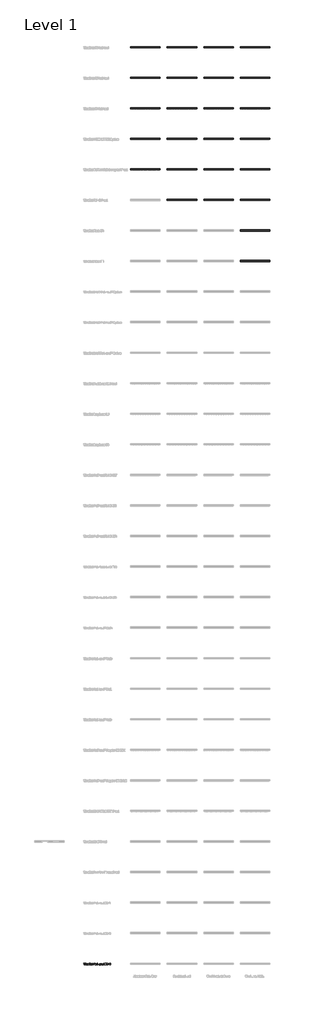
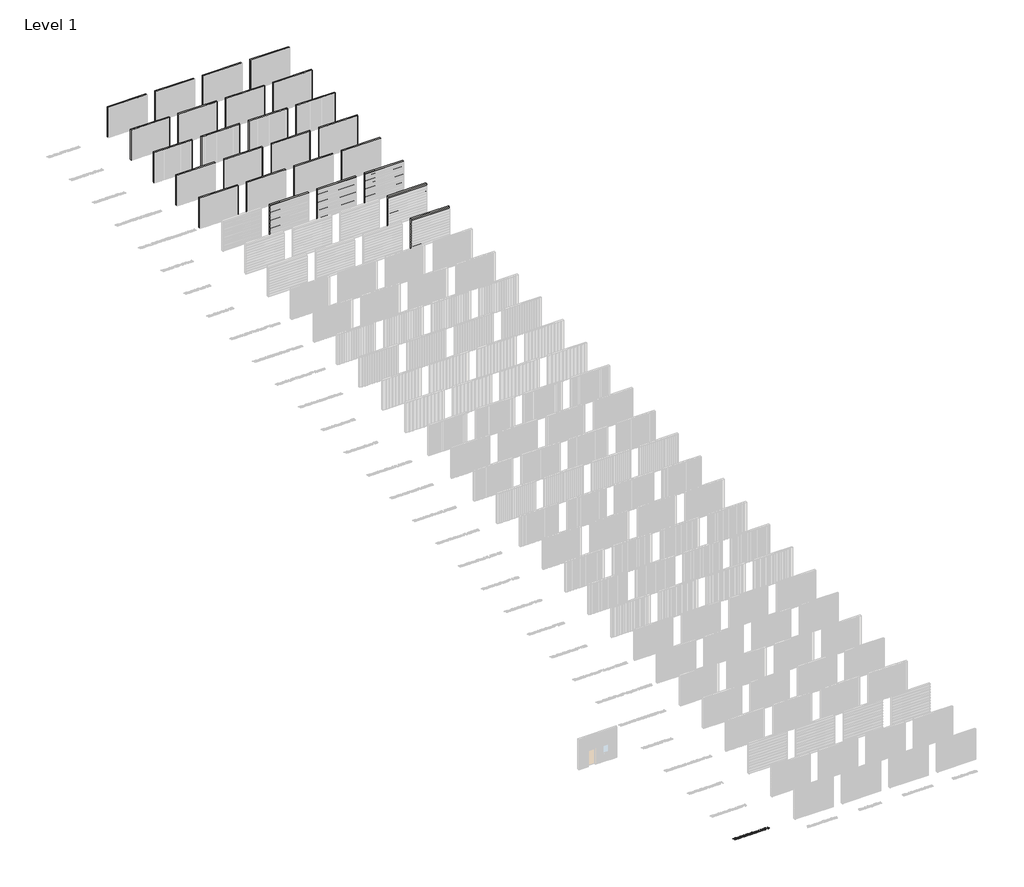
# One storey, part 2 of 33: 25 walls, 1 proxy.
"""IFC4 building model written with IfcOpenShell, lengths in millimetres."""

import ifcopenshell
import ifcopenshell.guid

model = None  # the IFC model being written
_history = None  # IfcOwnerHistory: only IFC2X3 demands one
_inside = {}  # id of a spatial element -> (the spatial element, [elements in it])
_under = {}  # id of a project, library or spatial element -> (it, [spatial elements below it])
_declared = {}  # id of a project -> (the project, [libraries it declares])
_typed = {}  # id of a type object -> (the type object, [elements of that type])
_made_of = {}  # id of a material, layer set ... -> (it, [elements and type objects made of it])


def new_model(schema):
    """Start an empty IFC model of exactly this schema.

    Asked for "IFC4X3", IfcOpenShell would pick the latest addendum, in which some entities
    have other attributes; the version numbers below select the first issue.
    IFC2X3 requires an IfcOwnerHistory on every rooted entity: one is made here for all.
    """
    global model, _history
    if schema == "IFC4X3":
        model = ifcopenshell.file(schema_version=(4, 3, 0, 0))
    else:
        model = ifcopenshell.file(schema=schema)
    _inside.clear()
    _under.clear()
    _declared.clear()
    _typed.clear()
    _made_of.clear()
    _history = None
    if model.schema == "IFC2X3":
        org = make("IfcOrganization", Name="unknown")
        user = make(
            "IfcPersonAndOrganization",
            ThePerson=make("IfcPerson", FamilyName="unknown"),
            TheOrganization=org,
        )
        app = make(
            "IfcApplication",
            ApplicationDeveloper=org,
            Version="unknown",
            ApplicationFullName="unknown",
            ApplicationIdentifier="unknown",
        )
        _history = make(
            "IfcOwnerHistory",
            OwningUser=user,
            OwningApplication=app,
            ChangeAction="ADDED",
            CreationDate=0,
        )
    return model


def make(cls, **values):
    """One entity of the class cls with the attributes given. An attribute that is None is left unset."""
    return model.create_entity(
        cls, **{name: value for name, value in values.items() if value is not None}
    )


def rooted(cls, **values):
    """An entity with a GlobalId (a new one), such as an element, a storey or a relation."""
    return make(cls, GlobalId=ifcopenshell.guid.new(), OwnerHistory=_history, **values)


def si_unit(unit_type, name, prefix=None):
    """IfcSIUnit, for example si_unit("LENGTHUNIT", "METRE", prefix="MILLI")."""
    return make("IfcSIUnit", UnitType=unit_type, Prefix=prefix, Name=name)


def assignment(units):
    """IfcUnitAssignment: the units of a project."""
    return None if units is None else make("IfcUnitAssignment", Units=units)


def point(xyz):
    """IfcCartesianPoint."""
    return None if xyz is None else make("IfcCartesianPoint", Coordinates=xyz)


def direction(xyz):
    """IfcDirection."""
    return None if xyz is None else make("IfcDirection", DirectionRatios=xyz)


def frame(location, z_axis=None, x_axis=None):
    """IfcAxis2Placement3D, a coordinate frame: its origin and axes. An axis left out is left unset."""
    return make(
        "IfcAxis2Placement3D",
        Location=point(location),
        Axis=direction(z_axis),
        RefDirection=direction(x_axis),
    )


def origin():
    """The frame at (0, 0, 0) with its axes left unset."""
    return frame((0.0, 0.0, 0.0))


def origin_with_axes():
    """The frame at (0, 0, 0) with the z axis (0, 0, 1) and the x axis (1, 0, 0) written out."""
    return frame((0.0, 0.0, 0.0), z_axis=(0.0, 0.0, 1.0), x_axis=(1.0, 0.0, 0.0))


def place(relative_to, where):
    """IfcLocalPlacement: puts the frame where relative to a parent placement (None: the world)."""
    return make(
        "IfcLocalPlacement", PlacementRelTo=relative_to, RelativePlacement=where
    )


def context(
    kind, dimensions, precision=None, world=None, true_north=None, identifier=None
):
    """IfcGeometricRepresentationContext, for example the 3D "Model" context."""
    return make(
        "IfcGeometricRepresentationContext",
        ContextIdentifier=identifier,
        ContextType=kind,
        CoordinateSpaceDimension=dimensions,
        Precision=precision,
        WorldCoordinateSystem=world,
        TrueNorth=true_north,
    )


def project(units=None, contexts=None):
    """IfcProject with its units and contexts."""
    return rooted(
        "IfcProject",
        Name="project",
        RepresentationContexts=contexts,
        UnitsInContext=assignment(units),
    )


def spatial(cls, under=None, at=None, **own):
    """A site, building, storey or space (cls), placed at a placement, below another one or the project."""
    s = rooted(cls, ObjectPlacement=at, **own)
    if under is not None:
        _under.setdefault(under.id(), (under, []))[1].append(s)
    return s


def polyline(points):
    """IfcPolyline through the points."""
    return make("IfcPolyline", Points=[point(p) for p in points])


def outline(outer, holes=None, kind="AREA"):
    """IfcArbitraryClosedProfileDef: a profile drawn as a closed curve; with holes, ...WithVoids."""
    if holes is None:
        return make("IfcArbitraryClosedProfileDef", ProfileType=kind, OuterCurve=outer)
    return make(
        "IfcArbitraryProfileDefWithVoids",
        ProfileType=kind,
        OuterCurve=outer,
        InnerCurves=holes,
    )


def extrude(swept, where, along, depth):
    """IfcExtrudedAreaSolid: the profile swept, set in the frame where, extruded along a direction by depth."""
    return make(
        "IfcExtrudedAreaSolid",
        SweptArea=swept,
        Position=where,
        ExtrudedDirection=direction(along),
        Depth=depth,
    )


def shape(context_of_items, identifier, shape_type, items):
    """IfcShapeRepresentation: the items that make up one representation, for example the "Body"."""
    return make(
        "IfcShapeRepresentation",
        ContextOfItems=context_of_items,
        RepresentationIdentifier=identifier,
        RepresentationType=shape_type,
        Items=items,
    )


def made_of(thing, what):
    """Note that an element or type object is made of a material, layer set ...; save() writes the relation."""
    if what is not None:
        _made_of.setdefault(what.id(), (what, []))[1].append(thing)
    return thing


def element(
    cls,
    number,
    at=None,
    inside=None,
    cuts=None,
    type_object=None,
    material=None,
    context=None,
    identifier="Body",
    shape_type=None,
    held_by="IfcProductDefinitionShape",
    body=None,
    shapes=None,
    **own,
):
    """One element of the class cls, such as IfcWall. Its Tag is "e" and its number.

    at: its placement. inside: the storey or other place that contains it. cuts: it is an
    opening in that element (IfcRelVoidsElement). A single representation is given by context,
    identifier, shape_type and body (its items); several are given by shapes. held_by: the class
    of the entity that holds the representations. save() writes the other relations.
    """
    e = rooted(cls, Tag="e%d" % number, ObjectPlacement=at, **own)
    if body is not None:
        shapes = [shape(context, identifier, shape_type, body)]
    if shapes is not None:
        e.Representation = make(held_by, Representations=shapes)
    if inside is not None:
        _inside.setdefault(inside.id(), (inside, []))[1].append(e)
    if cuts is not None:
        rooted(
            "IfcRelVoidsElement", RelatingBuildingElement=cuts, RelatedOpeningElement=e
        )
    if type_object is not None:
        _typed.setdefault(type_object.id(), (type_object, []))[1].append(e)
    return made_of(e, material)


def aggregate(whole, parts):
    """IfcRelAggregates: a whole, such as a stair, and the parts it consists of."""
    return rooted("IfcRelAggregates", RelatingObject=whole, RelatedObjects=parts)


def save(model, path):
    """Write the relations noted so far, then the file.

    IfcRelAggregates (storeys below a building ...), IfcRelContainedInSpatialStructure (elements
    in a storey), IfcRelDefinesByType, IfcRelAssociatesMaterial and IfcRelDeclares: one each for
    every whole, place, type object, material and project.
    """
    for whole, parts in _under.values():
        aggregate(whole, parts)
    for where, things in _inside.values():
        rooted(
            "IfcRelContainedInSpatialStructure",
            RelatedElements=things,
            RelatingStructure=where,
        )
    for kind, things in _typed.values():
        rooted("IfcRelDefinesByType", RelatedObjects=things, RelatingType=kind)
    for what, things in _made_of.values():
        rooted("IfcRelAssociatesMaterial", RelatedObjects=things, RelatingMaterial=what)
    for by, libraries in _declared.values():
        rooted("IfcRelDeclares", RelatingContext=by, RelatedDefinitions=libraries)
    model.write(path)


model = new_model("IFC4")

# Units and contexts
model_context = context("Model", 3, world=origin())
ifc_project = project(units=[si_unit("LENGTHUNIT", "METRE", prefix="MILLI")], contexts=[model_context])

# Site, building, storey
site = spatial("IfcSite", under=ifc_project)
building = spatial("IfcBuilding", under=site)
storey = spatial("IfcBuildingStorey", under=building, Name="Level 1", Elevation=0.0)

# Proxy
placement = place(None, origin())
element("IfcBuildingElementProxy", 1, Name="600mm Arial 2", ObjectType="600mm Arial 2", at=placement, inside=storey, context=model_context, shape_type="SweptSolid", body=[
    extrude(outline(polyline([(-9914.9924556, -17779.5871657), (-9914.9924556, -18047.0126498), (-9954.4439015, -18047.0126498), (-9954.4439015, -17779.5871657), (-10038.8787304, -17779.5871657), (-10038.8787304, -17742.6833224), (-9830.5576267, -17742.6833224), (-9830.5576267, -17779.5871657), (-9914.9924556, -17779.5871657)])), origin_with_axes(), (0.0, 0.0, 1.0), 5.0),
    extrude(outline(polyline([(-9763.1553408, -17746.9778525), (-9763.1553408, -17794.1448949), (-9802.6067867, -17794.1448949), (-9802.6067867, -17746.9778525), (-9763.1553408, -17746.9778525)])), origin_with_axes(), (0.0, 0.0, 1.0), 5.0),
    extrude(outline(polyline([(-9764.0288046, -17821.1494824), (-9764.0288046, -18047.0126498), (-9801.733323, -18047.0126498), (-9801.733323, -17821.1494824), (-9764.0288046, -17821.1494824)])), origin_with_axes(), (0.0, 0.0, 1.0), 5.0),
    extrude(outline(polyline([(-9648.294858, -17987.398749), (-9646.8208879, -17998.4808203), (-9642.3989777, -18006.3965855), (-9635.0291273, -18011.1460446), (-9624.7113368, -18012.7291977), (-9603.2386864, -18012.7291977), (-9603.2386864, -18047.0126498), (-9629.3698101, -18047.0126498), (-9653.1535001, -18043.0456686), (-9671.3688587, -18031.144725), (-9682.6692959, -18012.6018175), (-9686.4361083, -17988.7089446), (-9686.4361083, -17852.8853319), (-9720.2828285, -17852.8853319), (-9720.2828285, -17821.1494824), (-9686.4361083, -17821.1494824), (-9686.4361083, -17773.1089763), (-9648.294858, -17755.1301808), (-9648.294858, -17821.1494824), (-9599.3808881, -17821.1494824), (-9599.3808881, -17852.8853319), (-9648.294858, -17852.8853319), (-9648.294858, -17987.398749)])), origin_with_axes(), (0.0, 0.0, 1.0), 5.0),
    extrude(outline(polyline([(-9422.8684225, -17837.8908709), (-9413.2830677, -17848.6590411), (-9406.4363858, -17861.7473495), (-9400.9590402, -17894.8843804), (-9400.9590402, -18047.0126498), (-9438.2996154, -18047.0126498), (-9438.2996154, -18030.7079931), (-9456.7151427, -18043.1548515), (-9473.7476858, -18047.9589022), (-9493.9829293, -18049.5602524), (-9526.0281305, -18045.2839194), (-9550.1029751, -18032.4549206), (-9565.2248162, -18010.6729184), (-9570.2654299, -17981.4300801), (-9565.1338304, -17953.7885919), (-9549.7390318, -17932.5888988), (-9525.063681, -17919.3777597), (-9493.1094655, -17914.9740466), (-9438.7363472, -17914.9740466), (-9438.7363472, -17894.4476485), (-9441.6296959, -17875.558995), (-9450.3097419, -17861.8383353), (-9464.2305704, -17853.8133871), (-9483.7197302, -17851.1384044), (-9502.2262434, -17853.3948524), (-9515.819523, -17860.1641964), (-9524.1720201, -17870.5183813), (-9526.9561857, -17884.5483927), (-9526.9561857, -17890.1531184), (-9563.8600291, -17890.1531184), (-9563.8600291, -17883.7477176), (-9558.4008807, -17856.7067358), (-9542.0234354, -17835.7072115), (-9516.8203668, -17822.5506638), (-9484.1564621, -17818.1651479), (-9448.6719974, -17823.0965787), (-9434.5600987, -17829.2608671), (-9422.8684225, -17837.8908709)]), holes=[polyline([(-9450.6736851, -18005.4503331), (-9441.7206817, -17990.5468579), (-9438.7363472, -17968.9832216), (-9438.7363472, -17945.0357572), (-9488.8149354, -17945.0357572), (-9507.9538, -17947.2831067), (-9521.6244175, -17954.025155), (-9529.826788, -17965.2619021), (-9532.5609115, -17980.9933482), (-9529.8540837, -17996.9477094), (-9521.7336004, -18008.3436818), (-9508.1994616, -18015.1812652), (-9489.2516673, -18017.4604596), (-9466.104878, -18014.457928), (-9450.6736851, -18005.4503331)])]), origin_with_axes(), (0.0, 0.0, 1.0), 5.0),
    extrude(outline(polyline([(-9306.6977441, -17821.1494824), (-9306.6977441, -17839.5650097), (-9288.2822167, -17826.3174762), (-9271.1222935, -17820.5307789), (-9252.2518372, -17818.6018798), (-9219.9154813, -17824.0610282), (-9206.7907787, -17830.8849637), (-9195.6950595, -17840.4384735), (-9187.0650557, -17852.0209667), (-9180.9007673, -17865.8053165), (-9175.9693365, -17899.9795856), (-9175.9693365, -18047.0126498), (-9213.673855, -18047.0126498), (-9213.673855, -17904.2741157), (-9216.6763866, -17881.8916072), (-9225.6839815, -17866.1328654), (-9240.3781893, -17856.5247642), (-9259.567096, -17853.3220637), (-9278.7378056, -17856.5247642), (-9293.3774219, -17866.1328654), (-9303.0401146, -17882.546705), (-9306.2610122, -17904.2741157), (-9306.2610122, -18047.0126498), (-9343.9655306, -18047.0126498), (-9343.9655306, -17821.1494824), (-9306.6977441, -17821.1494824)])), origin_with_axes(), (0.0, 0.0, 1.0), 5.0),
    extrude(outline(polyline([(-9025.2240514, -17779.5871657), (-9025.2240514, -18047.0126498), (-9064.6754974, -18047.0126498), (-9064.6754974, -17779.5871657), (-9149.1103263, -17779.5871657), (-9149.1103263, -17742.6833224), (-8940.7892225, -17742.6833224), (-8940.7892225, -17779.5871657), (-9025.2240514, -17779.5871657)])), origin_with_axes(), (0.0, 0.0, 1.0), 5.0),
    extrude(outline(polyline([(-8884.5235994, -17952.7513537), (-8881.1025331, -17982.1670651), (-8870.8393341, -18001.1194087), (-8854.3527058, -18011.4099035), (-8832.2613519, -18014.8400684), (-8812.990558, -18012.2742686), (-8798.8513635, -18004.5768694), (-8790.1713175, -17992.8033059), (-8787.2779689, -17977.13555), (-8787.2779689, -17971.6036129), (-8750.3741256, -17971.6036129), (-8750.3741256, -17978.0090137), (-8756.0516399, -18007.1608663), (-8763.1485329, -18019.471246), (-8773.084183, -18030.2712613), (-8799.7976159, -18044.7380046), (-8834.3722226, -18049.5602524), (-8853.3222916, -18048.0612612), (-8870.2843206, -18043.5642877), (-8885.2583098, -18036.0693318), (-8898.2442591, -18025.5763936), (-8908.7371973, -18011.9762901), (-8916.2321532, -17995.1598383), (-8920.7291267, -17975.1270383), (-8922.2281179, -17951.8778899), (-8922.2281179, -17914.1733715), (-8920.7314014, -17891.4678633), (-8916.2412518, -17871.8285769), (-8908.7576691, -17855.2555121), (-8898.2806535, -17841.7486691), (-8885.4971476, -17831.4308786), (-8870.7301511, -17824.0610282), (-8853.979664, -17819.639118), (-8835.2456864, -17818.1651479), (-8816.8438069, -17819.639118), (-8800.2161506, -17824.0610282), (-8785.3627176, -17831.4308786), (-8772.2835079, -17841.7486691), (-8761.9657174, -17855.0917377), (-8754.595867, -17871.610211), (-8750.1739568, -17891.3040889), (-8748.6999867, -17914.1733715), (-8748.6999867, -17944.1622935), (-8884.5235994, -17944.1622935), (-8884.5235994, -17952.7513537)]), holes=[polyline([(-8871.2760659, -17866.5695973), (-8881.2117161, -17884.69397), (-8884.5235994, -17913.2999077), (-8786.4045051, -17913.7366396), (-8786.4045051, -17910.3155733), (-8789.6254027, -17883.0744226), (-8799.2880954, -17865.6961335), (-8814.9012599, -17856.4155812), (-8835.2456864, -17853.3220637), (-8855.60831, -17856.6339471), (-8871.2760659, -17866.5695973)])]), origin_with_axes(), (0.0, 0.0, 1.0), 5.0),
    extrude(outline(polyline([(-8663.391694, -17979.6831526), (-8663.391694, -18047.0126498), (-8701.0962125, -18047.0126498), (-8701.0962125, -17742.6833224), (-8663.391694, -17742.6833224), (-8663.391694, -17929.1678325), (-8575.0990669, -17821.1494824), (-8528.3687564, -17821.1494824), (-8602.5403863, -17908.1319139), (-8517.6688255, -18047.0126498), (-8563.5256722, -18047.0126498), (-8627.7980463, -17937.3201608), (-8663.391694, -17979.6831526)])), origin_with_axes(), (0.0, 0.0, 1.0), 5.0),
    extrude(outline(polyline([(-8240.5624516, -17742.6833224), (-8199.0001349, -17742.6833224), (-8298.4294248, -18047.0126498), (-8330.1652743, -18047.0126498), (-8429.1578324, -17742.6833224), (-8387.5955157, -17742.6833224), (-8313.8606177, -17977.13555), (-8240.5624516, -17742.6833224)])), origin_with_axes(), (0.0, 0.0, 1.0), 5.0),
    extrude(outline(polyline([(-8039.3018464, -17837.8908709), (-8029.7164916, -17848.6590411), (-8022.8698097, -17861.7473495), (-8017.3924641, -17894.8843804), (-8017.3924641, -18047.0126498), (-8054.7330393, -18047.0126498), (-8054.7330393, -18030.7079931), (-8073.1485666, -18043.1548515), (-8090.1811097, -18047.9589022), (-8110.4163532, -18049.5602524), (-8142.4615544, -18045.2839194), (-8166.536399, -18032.4549206), (-8181.6582401, -18010.6729184), (-8186.6988538, -17981.4300801), (-8181.5672543, -17953.7885919), (-8166.1724557, -17932.5888988), (-8141.4971049, -17919.3777597), (-8109.5428894, -17914.9740466), (-8055.1697712, -17914.9740466), (-8055.1697712, -17894.4476485), (-8058.0631198, -17875.558995), (-8066.7431658, -17861.8383353), (-8080.6639943, -17853.8133871), (-8100.1531542, -17851.1384044), (-8118.6596673, -17853.3948524), (-8132.2529469, -17860.1641964), (-8140.605444, -17870.5183813), (-8143.3896097, -17884.5483927), (-8143.3896097, -17890.1531184), (-8180.293453, -17890.1531184), (-8180.293453, -17883.7477176), (-8174.8343046, -17856.7067358), (-8158.4568593, -17835.7072115), (-8133.2537908, -17822.5506638), (-8100.589886, -17818.1651479), (-8065.1054213, -17823.0965787), (-8050.9935226, -17829.2608671), (-8039.3018464, -17837.8908709)]), holes=[polyline([(-8067.107109, -18005.4503331), (-8058.1541056, -17990.5468579), (-8055.1697712, -17968.9832216), (-8055.1697712, -17945.0357572), (-8105.2483594, -17945.0357572), (-8124.3872239, -17947.2831067), (-8138.0578414, -17954.025155), (-8146.2602119, -17965.2619021), (-8148.9943354, -17980.9933482), (-8146.2875076, -17996.9477094), (-8138.1670243, -18008.3436818), (-8124.6328855, -18015.1812652), (-8105.6850912, -18017.4604596), (-8082.5383019, -18014.457928), (-8067.107109, -18005.4503331)])]), origin_with_axes(), (0.0, 0.0, 1.0), 5.0),
    extrude(outline(polyline([(-7870.4321886, -17818.1651479), (-7850.2697337, -17820.2760186), (-7850.2697337, -17859.2907327), (-7876.8375894, -17853.686007), (-7895.1712295, -17857.2253549), (-7909.8472402, -17867.8433985), (-7919.4826371, -17884.2481396), (-7922.6944361, -17905.1475794), (-7922.6944361, -18047.0126498), (-7960.3989546, -18047.0126498), (-7960.3989546, -17821.1494824), (-7923.131168, -17821.1494824), (-7923.131168, -17840.8752053), (-7905.5891044, -17826.6814194), (-7889.4846166, -17820.2942158), (-7870.4321886, -17818.1651479)])), origin_with_axes(), (0.0, 0.0, 1.0), 5.0),
    extrude(outline(polyline([(-7773.9872331, -17746.9778525), (-7773.9872331, -17794.1448949), (-7813.438679, -17794.1448949), (-7813.438679, -17746.9778525), (-7773.9872331, -17746.9778525)])), origin_with_axes(), (0.0, 0.0, 1.0), 5.0),
    extrude(outline(polyline([(-7774.8606969, -17821.1494824), (-7774.8606969, -18047.0126498), (-7812.5652153, -18047.0126498), (-7812.5652153, -17821.1494824), (-7774.8606969, -17821.1494824)])), origin_with_axes(), (0.0, 0.0, 1.0), 5.0),
    extrude(outline(polyline([(-7529.6357497, -17766.7035755), (-7518.2033831, -17780.1603763), (-7510.0374069, -17796.073794), (-7505.1378212, -17814.4438284), (-7503.504626, -17835.2704796), (-7505.1651169, -17854.955259), (-7510.1465899, -17872.4472804), (-7518.4490448, -17887.7465438), (-7530.0724816, -17900.8530493), (-7544.1297888, -17911.3619101), (-7560.6073184, -17918.8682391), (-7579.5050706, -17923.3720366), (-7600.8230452, -17924.8733024), (-7671.5008201, -17924.8733024), (-7671.5008201, -18047.0126498), (-7711.3889979, -18047.0126498), (-7711.3889979, -17742.6833224), (-7600.8230452, -17742.6833224), (-7579.6415493, -17744.1845882), (-7560.7165014, -17748.6883857), (-7544.0479016, -17756.1947147), (-7529.6357497, -17766.7035755)]), holes=[polyline([(-7558.3872648, -17874.7219256), (-7547.141419, -17858.4172689), (-7543.3928038, -17835.2704796), (-7547.250602, -17810.6497202), (-7558.8239966, -17793.2714311), (-7577.8946218, -17783.0082321), (-7603.3706478, -17779.5871657), (-7671.5008201, -17779.5871657), (-7671.5008201, -17887.9694591), (-7603.3706478, -17887.9694591), (-7577.130341, -17884.6575757), (-7558.3872648, -17874.7219256)])]), origin_with_axes(), (0.0, 0.0, 1.0), 5.0),
    extrude(outline(polyline([(-7331.2139018, -17837.8908709), (-7321.628547, -17848.6590411), (-7314.781865, -17861.7473495), (-7309.3045194, -17894.8843804), (-7309.3045194, -18047.0126498), (-7346.6450946, -18047.0126498), (-7346.6450946, -18030.7079931), (-7365.060622, -18043.1548515), (-7382.093165, -18047.9589022), (-7402.3284085, -18049.5602524), (-7434.3736098, -18045.2839194), (-7458.4484543, -18032.4549206), (-7473.5702954, -18010.6729184), (-7478.6109091, -17981.4300801), (-7473.4793096, -17953.7885919), (-7458.0845111, -17932.5888988), (-7433.4091602, -17919.3777597), (-7401.4549448, -17914.9740466), (-7347.0818265, -17914.9740466), (-7347.0818265, -17894.4476485), (-7349.9751752, -17875.558995), (-7358.6552212, -17861.8383353), (-7372.5760496, -17853.8133871), (-7392.0652095, -17851.1384044), (-7410.5717226, -17853.3948524), (-7424.1650022, -17860.1641964), (-7432.5174993, -17870.5183813), (-7435.301665, -17884.5483927), (-7435.301665, -17890.1531184), (-7472.2055083, -17890.1531184), (-7472.2055083, -17883.7477176), (-7466.7463599, -17856.7067358), (-7450.3689146, -17835.7072115), (-7425.1658461, -17822.5506638), (-7392.5019414, -17818.1651479), (-7357.0174766, -17823.0965787), (-7342.905578, -17829.2608671), (-7331.2139018, -17837.8908709)]), holes=[polyline([(-7359.0191644, -18005.4503331), (-7350.066161, -17990.5468579), (-7347.0818265, -17968.9832216), (-7347.0818265, -17945.0357572), (-7397.1604147, -17945.0357572), (-7416.2992792, -17947.2831067), (-7429.9698967, -17954.025155), (-7438.1722672, -17965.2619021), (-7440.9063907, -17980.9933482), (-7438.199563, -17996.9477094), (-7430.0790797, -18008.3436818), (-7416.5449409, -18015.1812652), (-7397.5971466, -18017.4604596), (-7374.4503573, -18014.457928), (-7359.0191644, -18005.4503331)])]), origin_with_axes(), (0.0, 0.0, 1.0), 5.0),
    extrude(outline(polyline([(-7215.0432233, -17821.1494824), (-7215.0432233, -17839.5650097), (-7196.627696, -17826.3174762), (-7179.4677728, -17820.5307789), (-7160.5973164, -17818.6018798), (-7128.2609606, -17824.0610282), (-7115.1362579, -17830.8849637), (-7104.0405387, -17840.4384735), (-7095.410535, -17852.0209667), (-7089.2462465, -17865.8053165), (-7084.3148158, -17899.9795856), (-7084.3148158, -18047.0126498), (-7122.0193342, -18047.0126498), (-7122.0193342, -17904.2741157), (-7125.0218659, -17881.8916072), (-7134.0294607, -17866.1328654), (-7148.7236686, -17856.5247642), (-7167.9125753, -17853.3220637), (-7187.0832848, -17856.5247642), (-7201.7229012, -17866.1328654), (-7211.3855939, -17882.546705), (-7214.6064915, -17904.2741157), (-7214.6064915, -18047.0126498), (-7252.3110099, -18047.0126498), (-7252.3110099, -17821.1494824), (-7215.0432233, -17821.1494824)])), origin_with_axes(), (0.0, 0.0, 1.0), 5.0),
    extrude(outline(polyline([(-6997.8419048, -17952.7513537), (-6994.4208384, -17982.1670651), (-6984.1576394, -18001.1194087), (-6967.6710112, -18011.4099035), (-6945.5796572, -18014.8400684), (-6926.3088633, -18012.2742686), (-6912.1696689, -18004.5768694), (-6903.4896229, -17992.8033059), (-6900.5962742, -17977.13555), (-6900.5962742, -17971.6036129), (-6863.6924309, -17971.6036129), (-6863.6924309, -17978.0090137), (-6869.3699452, -18007.1608663), (-6876.4668382, -18019.471246), (-6886.4024883, -18030.2712613), (-6913.1159213, -18044.7380046), (-6947.6905279, -18049.5602524), (-6966.6405969, -18048.0612612), (-6983.602626, -18043.5642877), (-6998.5766152, -18036.0693318), (-7011.5625645, -18025.5763936), (-7022.0555027, -18011.9762901), (-7029.5504585, -17995.1598383), (-7034.047432, -17975.1270383), (-7035.5464232, -17951.8778899), (-7035.5464232, -17914.1733715), (-7034.0497067, -17891.4678633), (-7029.5595571, -17871.8285769), (-7022.0759745, -17855.2555121), (-7011.5989588, -17841.7486691), (-6998.8154529, -17831.4308786), (-6984.0484564, -17824.0610282), (-6967.2979694, -17819.639118), (-6948.5639917, -17818.1651479), (-6930.1621122, -17819.639118), (-6913.534456, -17824.0610282), (-6898.681023, -17831.4308786), (-6885.6018132, -17841.7486691), (-6875.2840227, -17855.0917377), (-6867.9141723, -17871.610211), (-6863.4922621, -17891.3040889), (-6862.018292, -17914.1733715), (-6862.018292, -17944.1622935), (-6997.8419048, -17944.1622935), (-6997.8419048, -17952.7513537)]), holes=[polyline([(-6984.5943713, -17866.5695973), (-6994.5300214, -17884.69397), (-6997.8419048, -17913.2999077), (-6899.7228105, -17913.7366396), (-6899.7228105, -17910.3155733), (-6902.943708, -17883.0744226), (-6912.6064007, -17865.6961335), (-6928.2195652, -17856.4155812), (-6948.5639917, -17853.3220637), (-6968.9266153, -17856.6339471), (-6984.5943713, -17866.5695973)])]), origin_with_axes(), (0.0, 0.0, 1.0), 5.0),
    extrude(outline(polyline([(-6799.4200568, -18031.144725), (-6810.6659025, -18011.637368), (-6814.4145178, -17985.7246101), (-6814.4145178, -17742.6833224), (-6776.7099994, -17742.6833224), (-6776.7099994, -17983.9776826), (-6775.3270151, -17997.3889906), (-6771.1780623, -18005.887065), (-6764.1903523, -18010.3635667), (-6753.5632101, -18011.8557339), (-6731.7266164, -18011.8557339), (-6731.7266164, -18047.0126498), (-6756.5475445, -18047.0126498), (-6781.4230642, -18043.0456686), (-6799.4200568, -18031.144725)])), origin_with_axes(), (0.0, 0.0, 1.0), 5.0),
    extrude(outline(polyline([(-6393.1138369, -18047.0126498), (-6432.9292261, -18047.0126498), (-6432.9292261, -17909.8788414), (-6562.7841699, -17909.8788414), (-6562.7841699, -18047.0126498), (-6602.6723477, -18047.0126498), (-6602.6723477, -17742.6833224), (-6562.7841699, -17742.6833224), (-6562.7841699, -17872.9749981), (-6432.9292261, -17872.9749981), (-6432.9292261, -17742.6833224), (-6393.1138369, -17742.6833224), (-6393.1138369, -18047.0126498)])), origin_with_axes(), (0.0, 0.0, 1.0), 5.0),
    extrude(outline(polyline([(-6176.8587707, -17742.6833224), (-6135.2964541, -17742.6833224), (-6234.725744, -18047.0126498), (-6266.4615935, -18047.0126498), (-6365.4541516, -17742.6833224), (-6323.8918349, -17742.6833224), (-6250.1569369, -17977.13555), (-6176.8587707, -17742.6833224)])), origin_with_axes(), (0.0, 0.0, 1.0), 5.0),
    extrude(outline(polyline([(-5927.1209276, -17766.7035755), (-5915.6885609, -17780.1603763), (-5907.5225848, -17796.073794), (-5902.6229991, -17814.4438284), (-5900.9898038, -17835.2704796), (-5902.6502948, -17854.955259), (-5907.6317677, -17872.4472804), (-5915.9342226, -17887.7465438), (-5927.5576595, -17900.8530493), (-5941.6149667, -17911.3619101), (-5958.0924963, -17918.8682391), (-5976.9902484, -17923.3720366), (-5998.308223, -17924.8733024), (-6068.9859979, -17924.8733024), (-6068.9859979, -18047.0126498), (-6108.8741757, -18047.0126498), (-6108.8741757, -17742.6833224), (-5998.308223, -17742.6833224), (-5977.1267271, -17744.1845882), (-5958.2016793, -17748.6883857), (-5941.5330794, -17756.1947147), (-5927.1209276, -17766.7035755)]), holes=[polyline([(-5955.8724426, -17874.7219256), (-5944.6265969, -17858.4172689), (-5940.8779816, -17835.2704796), (-5944.7357798, -17810.6497202), (-5956.3091745, -17793.2714311), (-5975.3797996, -17783.0082321), (-6000.8558256, -17779.5871657), (-6068.9859979, -17779.5871657), (-6068.9859979, -17887.9694591), (-6000.8558256, -17887.9694591), (-5974.6155189, -17884.6575757), (-5955.8724426, -17874.7219256)])]), origin_with_axes(), (0.0, 0.0, 1.0), 5.0),
    extrude(outline(polyline([(-5632.4724901, -17989.1456765), (-5632.4724901, -18047.0126498), (-5672.3606679, -18047.0126498), (-5672.3606679, -17989.1456765), (-5783.3633525, -17989.1456765), (-5783.3633525, -17955.7356881), (-5693.3965865, -17742.6833224), (-5652.6349449, -17742.6833224), (-5741.364304, -17952.3146218), (-5672.3606679, -17952.3146218), (-5672.3606679, -17871.7375911), (-5632.4724901, -17871.7375911), (-5632.4724901, -17952.3146218), (-5600.3726974, -17952.3146218), (-5600.3726974, -17989.1456765), (-5632.4724901, -17989.1456765)])), origin_with_axes(), (0.0, 0.0, 1.0), 5.0),
])

# Walls
element("IfcWall", 2, ObjectType="Generic - 200mm", at=placement, inside=storey, context=model_context, shape_type="SweptSolid", body=[
    extrude(outline(polyline([(20489.4102183, 97078.6095025), (15639.4102183, 97078.6095025), (15639.4102183, 97278.6095025), (20489.4102183, 97278.6095025), (20489.4102183, 97078.6095025)])), origin_with_axes(), (0.0, 0.0, 1.0), 4000.0),
])
element("IfcWall", 3, ObjectType="Generic - 200mm", at=placement, inside=storey, context=model_context, shape_type="SweptSolid", body=[
    extrude(outline(polyline([(20489.4102183, 102078.6095025), (15639.4102183, 102078.6095025), (15639.4102183, 102278.6095025), (20489.4102183, 102278.6095025), (20489.4102183, 102078.6095025)])), origin_with_axes(), (0.0, 0.0, 1.0), 4000.0),
])
element("IfcWall", 4, ObjectType="Generic - 200mm", at=placement, inside=storey, context=model_context, shape_type="SweptSolid", body=[
    extrude(outline(polyline([(8489.4102183, 107078.6095025), (3639.4102183, 107078.6095025), (3639.4102183, 107278.6095025), (8489.4102183, 107278.6095025), (8489.4102183, 107078.6095025)])), origin_with_axes(), (0.0, 0.0, 1.0), 4000.0),
])
element("IfcWall", 5, ObjectType="Generic - 200mm", at=placement, inside=storey, context=model_context, shape_type="SweptSolid", body=[
    extrude(outline(polyline([(14489.4102183, 107078.6095025), (9639.4102183, 107078.6095025), (9639.4102183, 107278.6095025), (14489.4102183, 107278.6095025), (14489.4102183, 107078.6095025)])), origin_with_axes(), (0.0, 0.0, 1.0), 4000.0),
])
element("IfcWall", 6, ObjectType="Generic - 200mm", at=placement, inside=storey, context=model_context, shape_type="SweptSolid", body=[
    extrude(outline(polyline([(20489.4102183, 107078.6095025), (15639.4102183, 107078.6095025), (15639.4102183, 107278.6095025), (20489.4102183, 107278.6095025), (20489.4102183, 107078.6095025)])), origin_with_axes(), (0.0, 0.0, 1.0), 4000.0),
])
element("IfcWall", 7, ObjectType="Generic - 200mm", at=placement, inside=storey, context=model_context, shape_type="SweptSolid", body=[
    extrude(outline(polyline([(2489.4102183, 112078.6095025), (-2360.5897817, 112078.6095025), (-2360.5897817, 112278.6095025), (2489.4102183, 112278.6095025), (2489.4102183, 112078.6095025)])), origin_with_axes(), (0.0, 0.0, 1.0), 4000.0),
])
element("IfcWall", 8, ObjectType="Generic - 200mm", at=placement, inside=storey, context=model_context, shape_type="SweptSolid", body=[
    extrude(outline(polyline([(8489.4102183, 112078.6095025), (3639.4102183, 112078.6095025), (3639.4102183, 112278.6095025), (8489.4102183, 112278.6095025), (8489.4102183, 112078.6095025)])), origin_with_axes(), (0.0, 0.0, 1.0), 4000.0),
])
element("IfcWall", 9, ObjectType="Generic - 200mm", at=placement, inside=storey, context=model_context, shape_type="SweptSolid", body=[
    extrude(outline(polyline([(14489.4102183, 112078.6095025), (9639.4102183, 112078.6095025), (9639.4102183, 112278.6095025), (14489.4102183, 112278.6095025), (14489.4102183, 112078.6095025)])), origin_with_axes(), (0.0, 0.0, 1.0), 4000.0),
])
element("IfcWall", 10, ObjectType="Generic - 200mm", at=placement, inside=storey, context=model_context, shape_type="SweptSolid", body=[
    extrude(outline(polyline([(20489.4102183, 112078.6095025), (15639.4102183, 112078.6095025), (15639.4102183, 112278.6095025), (20489.4102183, 112278.6095025), (20489.4102183, 112078.6095025)])), origin_with_axes(), (0.0, 0.0, 1.0), 4000.0),
])
element("IfcWall", 11, ObjectType="Generic - 200mm", at=placement, inside=storey, context=model_context, shape_type="SweptSolid", body=[
    extrude(outline(polyline([(2489.4102183, 117078.6095025), (-2360.5897817, 117078.6095025), (-2360.5897817, 117278.6095025), (2489.4102183, 117278.6095025), (2489.4102183, 117078.6095025)])), origin_with_axes(), (0.0, 0.0, 1.0), 4000.0),
])
element("IfcWall", 12, ObjectType="Generic - 200mm", at=placement, inside=storey, context=model_context, shape_type="SweptSolid", body=[
    extrude(outline(polyline([(8489.4102183, 117078.6095025), (3639.4102183, 117078.6095025), (3639.4102183, 117278.6095025), (8489.4102183, 117278.6095025), (8489.4102183, 117078.6095025)])), origin_with_axes(), (0.0, 0.0, 1.0), 4000.0),
])
element("IfcWall", 13, ObjectType="Generic - 200mm", at=placement, inside=storey, context=model_context, shape_type="SweptSolid", body=[
    extrude(outline(polyline([(14489.4102183, 117078.6095025), (9639.4102183, 117078.6095025), (9639.4102183, 117278.6095025), (14489.4102183, 117278.6095025), (14489.4102183, 117078.6095025)])), origin_with_axes(), (0.0, 0.0, 1.0), 4000.0),
])
element("IfcWall", 14, ObjectType="Generic - 200mm", at=placement, inside=storey, context=model_context, shape_type="SweptSolid", body=[
    extrude(outline(polyline([(20489.4102183, 117078.6095025), (15639.4102183, 117078.6095025), (15639.4102183, 117278.6095025), (20489.4102183, 117278.6095025), (20489.4102183, 117078.6095025)])), origin_with_axes(), (0.0, 0.0, 1.0), 4000.0),
])
element("IfcWall", 15, ObjectType="Generic - 200mm", at=placement, inside=storey, context=model_context, shape_type="SweptSolid", body=[
    extrude(outline(polyline([(2489.4102183, 122078.6095025), (-2360.5897817, 122078.6095025), (-2360.5897817, 122278.6095025), (2489.4102183, 122278.6095025), (2489.4102183, 122078.6095025)])), origin_with_axes(), (0.0, 0.0, 1.0), 4000.0),
])
element("IfcWall", 16, ObjectType="Generic - 200mm", at=placement, inside=storey, context=model_context, shape_type="SweptSolid", body=[
    extrude(outline(polyline([(8489.4102183, 122078.6095025), (3639.4102183, 122078.6095025), (3639.4102183, 122278.6095025), (8489.4102183, 122278.6095025), (8489.4102183, 122078.6095025)])), origin_with_axes(), (0.0, 0.0, 1.0), 4000.0),
])
element("IfcWall", 17, ObjectType="Generic - 200mm", at=placement, inside=storey, context=model_context, shape_type="SweptSolid", body=[
    extrude(outline(polyline([(14489.4102183, 122078.6095025), (9639.4102183, 122078.6095025), (9639.4102183, 122278.6095025), (14489.4102183, 122278.6095025), (14489.4102183, 122078.6095025)])), origin_with_axes(), (0.0, 0.0, 1.0), 4000.0),
])
element("IfcWall", 18, ObjectType="Generic - 200mm", at=placement, inside=storey, context=model_context, shape_type="SweptSolid", body=[
    extrude(outline(polyline([(20489.4102183, 122078.6095025), (15639.4102183, 122078.6095025), (15639.4102183, 122278.6095025), (20489.4102183, 122278.6095025), (20489.4102183, 122078.6095025)])), origin_with_axes(), (0.0, 0.0, 1.0), 4000.0),
])
element("IfcWall", 19, ObjectType="Generic - 200mm", at=placement, inside=storey, context=model_context, shape_type="SweptSolid", body=[
    extrude(outline(polyline([(2489.4102183, 127078.6095025), (-2360.5897817, 127078.6095025), (-2360.5897817, 127278.6095025), (2489.4102183, 127278.6095025), (2489.4102183, 127078.6095025)])), origin_with_axes(), (0.0, 0.0, 1.0), 4000.0),
])
element("IfcWall", 20, ObjectType="Generic - 200mm", at=placement, inside=storey, context=model_context, shape_type="SweptSolid", body=[
    extrude(outline(polyline([(8489.4102183, 127078.6095025), (3639.4102183, 127078.6095025), (3639.4102183, 127278.6095025), (8489.4102183, 127278.6095025), (8489.4102183, 127078.6095025)])), origin_with_axes(), (0.0, 0.0, 1.0), 4000.0),
])
element("IfcWall", 21, ObjectType="Generic - 200mm", at=placement, inside=storey, context=model_context, shape_type="SweptSolid", body=[
    extrude(outline(polyline([(14489.4102183, 127078.6095025), (9639.4102183, 127078.6095025), (9639.4102183, 127278.6095025), (14489.4102183, 127278.6095025), (14489.4102183, 127078.6095025)])), origin_with_axes(), (0.0, 0.0, 1.0), 4000.0),
])
element("IfcWall", 22, ObjectType="Generic - 200mm", at=placement, inside=storey, context=model_context, shape_type="SweptSolid", body=[
    extrude(outline(polyline([(20489.4102183, 127078.6095025), (15639.4102183, 127078.6095025), (15639.4102183, 127278.6095025), (20489.4102183, 127278.6095025), (20489.4102183, 127078.6095025)])), origin_with_axes(), (0.0, 0.0, 1.0), 4000.0),
])
element("IfcWall", 23, ObjectType="Generic - 200mm", at=placement, inside=storey, context=model_context, shape_type="SweptSolid", body=[
    extrude(outline(polyline([(2489.4102183, 132078.6095025), (-2360.5897817, 132078.6095025), (-2360.5897817, 132278.6095025), (2489.4102183, 132278.6095025), (2489.4102183, 132078.6095025)])), origin_with_axes(), (0.0, 0.0, 1.0), 4000.0),
])
element("IfcWall", 24, ObjectType="Generic - 200mm", at=placement, inside=storey, context=model_context, shape_type="SweptSolid", body=[
    extrude(outline(polyline([(8489.4102183, 132078.6095025), (3639.4102183, 132078.6095025), (3639.4102183, 132278.6095025), (8489.4102183, 132278.6095025), (8489.4102183, 132078.6095025)])), origin_with_axes(), (0.0, 0.0, 1.0), 4000.0),
])
element("IfcWall", 25, ObjectType="Generic - 200mm", at=placement, inside=storey, context=model_context, shape_type="SweptSolid", body=[
    extrude(outline(polyline([(14489.4102183, 132078.6095025), (9639.4102183, 132078.6095025), (9639.4102183, 132278.6095025), (14489.4102183, 132278.6095025), (14489.4102183, 132078.6095025)])), origin_with_axes(), (0.0, 0.0, 1.0), 4000.0),
])
element("IfcWall", 26, ObjectType="Generic - 200mm", at=placement, inside=storey, context=model_context, shape_type="SweptSolid", body=[
    extrude(outline(polyline([(20489.4102183, 132078.6095025), (15639.4102183, 132078.6095025), (15639.4102183, 132278.6095025), (20489.4102183, 132278.6095025), (20489.4102183, 132078.6095025)])), origin_with_axes(), (0.0, 0.0, 1.0), 4000.0),
])

save(model, "model.ifc")
